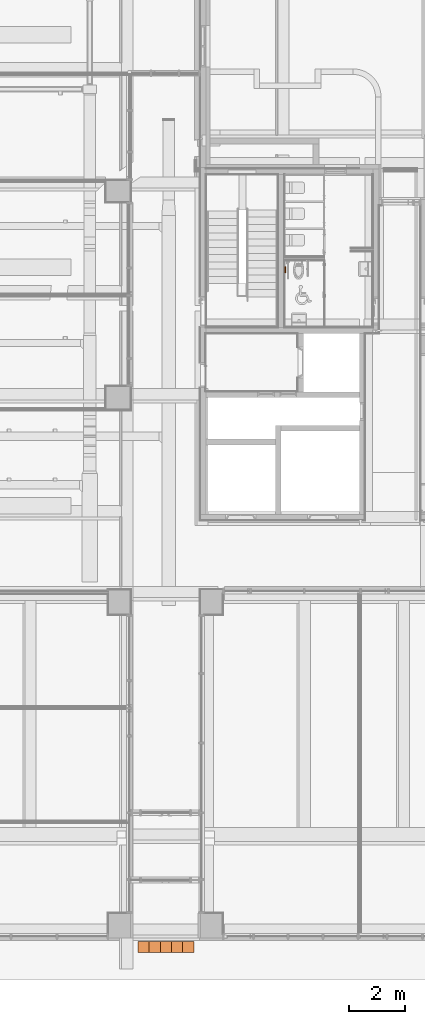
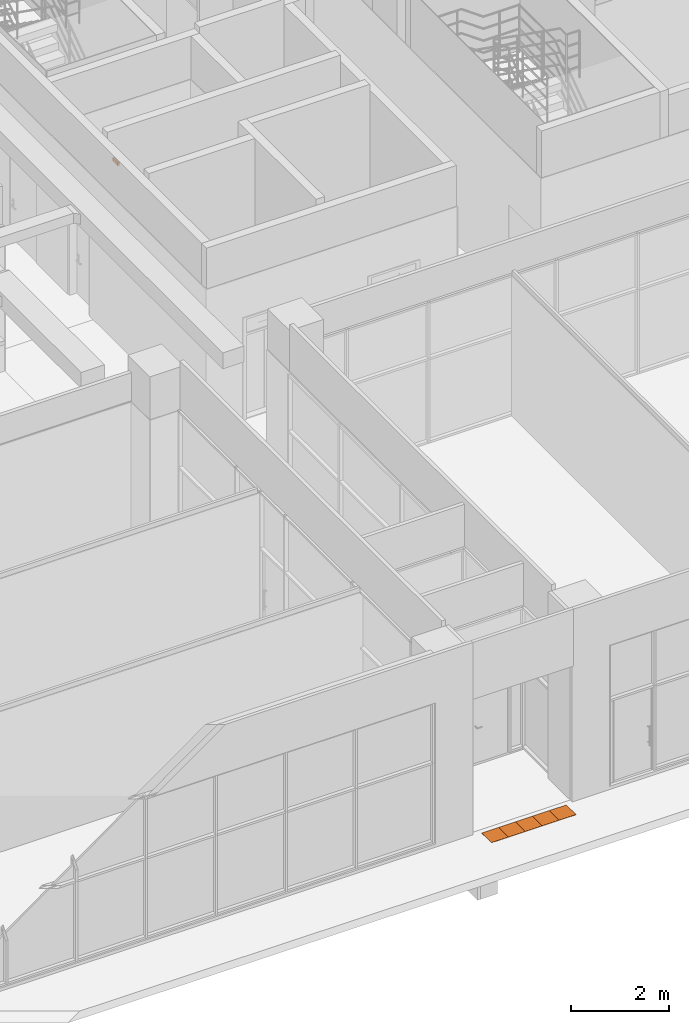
# One storey, part 99 of 100: 6 proxies.
"""IFC2X3 building model written with IfcOpenShell, lengths in millimetres."""

import ifcopenshell
import ifcopenshell.guid

model = None  # the IFC model being written
_history = None  # IfcOwnerHistory: only IFC2X3 demands one
_inside = {}  # id of a spatial element -> (the spatial element, [elements in it])
_under = {}  # id of a project, library or spatial element -> (it, [spatial elements below it])
_declared = {}  # id of a project -> (the project, [libraries it declares])
_typed = {}  # id of a type object -> (the type object, [elements of that type])
_made_of = {}  # id of a material, layer set ... -> (it, [elements and type objects made of it])


def new_model(schema):
    """Start an empty IFC model of exactly this schema.

    Asked for "IFC4X3", IfcOpenShell would pick the latest addendum, in which some entities
    have other attributes; the version numbers below select the first issue.
    IFC2X3 requires an IfcOwnerHistory on every rooted entity: one is made here for all.
    """
    global model, _history
    if schema == "IFC4X3":
        model = ifcopenshell.file(schema_version=(4, 3, 0, 0))
    else:
        model = ifcopenshell.file(schema=schema)
    _inside.clear()
    _under.clear()
    _declared.clear()
    _typed.clear()
    _made_of.clear()
    _history = None
    if model.schema == "IFC2X3":
        org = make("IfcOrganization", Name="unknown")
        user = make(
            "IfcPersonAndOrganization",
            ThePerson=make("IfcPerson", FamilyName="unknown"),
            TheOrganization=org,
        )
        app = make(
            "IfcApplication",
            ApplicationDeveloper=org,
            Version="unknown",
            ApplicationFullName="unknown",
            ApplicationIdentifier="unknown",
        )
        _history = make(
            "IfcOwnerHistory",
            OwningUser=user,
            OwningApplication=app,
            ChangeAction="ADDED",
            CreationDate=0,
        )
    return model


def make(cls, **values):
    """One entity of the class cls with the attributes given. An attribute that is None is left unset."""
    return model.create_entity(
        cls, **{name: value for name, value in values.items() if value is not None}
    )


def entity(cls, *values):
    """Any entity or typed value of the class cls, its attributes in the order of the schema. None: left unset."""
    e = model.create_entity(cls)
    for i, value in enumerate(values):
        if value is not None:
            e[i] = value
    return e


def rooted(cls, **values):
    """An entity with a GlobalId (a new one), such as an element, a storey or a relation."""
    return make(cls, GlobalId=ifcopenshell.guid.new(), OwnerHistory=_history, **values)


def si_unit(unit_type, name, prefix=None):
    """IfcSIUnit, for example si_unit("LENGTHUNIT", "METRE", prefix="MILLI")."""
    return make("IfcSIUnit", UnitType=unit_type, Prefix=prefix, Name=name)


def converted_unit(unit_type, name, factor, base, dimensions=None, offset=None):
    """IfcConversionBasedUnit, such as the inch: factor (a typed value) times the base unit."""
    return make(
        "IfcConversionBasedUnit"
        if offset is None
        else "IfcConversionBasedUnitWithOffset",
        ConversionOffset=offset,
        Dimensions=None
        if dimensions is None
        else entity("IfcDimensionalExponents", *dimensions),
        UnitType=unit_type,
        Name=name,
        ConversionFactor=make(
            "IfcMeasureWithUnit", ValueComponent=factor, UnitComponent=base
        ),
    )


def derived_unit(unit_type, elements):
    """IfcDerivedUnit: a product of units, each with its exponent."""
    return make(
        "IfcDerivedUnit",
        Elements=[
            make("IfcDerivedUnitElement", Unit=unit, Exponent=power)
            for unit, power in elements
        ],
        UnitType=unit_type,
    )


def assignment(units):
    """IfcUnitAssignment: the units of a project."""
    return None if units is None else make("IfcUnitAssignment", Units=units)


def point(xyz):
    """IfcCartesianPoint."""
    return None if xyz is None else make("IfcCartesianPoint", Coordinates=xyz)


def direction(xyz):
    """IfcDirection."""
    return None if xyz is None else make("IfcDirection", DirectionRatios=xyz)


def frame(location, z_axis=None, x_axis=None):
    """IfcAxis2Placement3D, a coordinate frame: its origin and axes. An axis left out is left unset."""
    return make(
        "IfcAxis2Placement3D",
        Location=point(location),
        Axis=direction(z_axis),
        RefDirection=direction(x_axis),
    )


def frame_2d(location, x_axis=None):
    """IfcAxis2Placement2D, a coordinate frame in the plane: its origin and x axis."""
    return make(
        "IfcAxis2Placement2D", Location=point(location), RefDirection=direction(x_axis)
    )


def origin():
    """The frame at (0, 0, 0) with its axes left unset."""
    return frame((0.0, 0.0, 0.0))


def place(relative_to, where):
    """IfcLocalPlacement: puts the frame where relative to a parent placement (None: the world)."""
    return make(
        "IfcLocalPlacement", PlacementRelTo=relative_to, RelativePlacement=where
    )


def context(
    kind, dimensions, precision=None, world=None, true_north=None, identifier=None
):
    """IfcGeometricRepresentationContext, for example the 3D "Model" context."""
    return make(
        "IfcGeometricRepresentationContext",
        ContextIdentifier=identifier,
        ContextType=kind,
        CoordinateSpaceDimension=dimensions,
        Precision=precision,
        WorldCoordinateSystem=world,
        TrueNorth=true_north,
    )


def subcontext(parent, identifier, kind, view, scale=None):
    """IfcGeometricRepresentationSubContext, for example "Body" below "Model"."""
    return make(
        "IfcGeometricRepresentationSubContext",
        ContextIdentifier=identifier,
        ContextType=kind,
        ParentContext=parent,
        TargetScale=scale,
        TargetView=view,
    )


def project(units=None, contexts=None):
    """IfcProject with its units and contexts."""
    return rooted(
        "IfcProject",
        Name="project",
        RepresentationContexts=contexts,
        UnitsInContext=assignment(units),
    )


def spatial(cls, under=None, at=None, **own):
    """A site, building, storey or space (cls), placed at a placement, below another one or the project."""
    s = rooted(cls, ObjectPlacement=at, **own)
    if under is not None:
        _under.setdefault(under.id(), (under, []))[1].append(s)
    return s


def profile(cls, at=None, kind="AREA", **sizes):
    """A parametric profile (cls). Its sizes go by their IFC names, for example OverallWidth=200.0."""
    return make(cls, ProfileType=kind, Position=at, **sizes)


def rectangle(**sizes):
    """IfcRectangleProfileDef."""
    return profile("IfcRectangleProfileDef", **sizes)


def extrude(swept, where, along, depth):
    """IfcExtrudedAreaSolid: the profile swept, set in the frame where, extruded along a direction by depth."""
    return make(
        "IfcExtrudedAreaSolid",
        SweptArea=swept,
        Position=where,
        ExtrudedDirection=direction(along),
        Depth=depth,
    )


def shape(context_of_items, identifier, shape_type, items):
    """IfcShapeRepresentation: the items that make up one representation, for example the "Body"."""
    return make(
        "IfcShapeRepresentation",
        ContextOfItems=context_of_items,
        RepresentationIdentifier=identifier,
        RepresentationType=shape_type,
        Items=items,
    )


def source(mapping_origin, context_of_items, identifier, shape_type, items):
    """IfcRepresentationMap: a shape defined once, which mapped items show again and again."""
    return make(
        "IfcRepresentationMap",
        MappingOrigin=mapping_origin,
        MappedRepresentation=shape(context_of_items, identifier, shape_type, items),
    )


def transform(
    local_origin,
    x_axis=None,
    y_axis=None,
    z_axis=None,
    scale=None,
    scale2=None,
    scale3=None,
    uniform=True,
):
    """IfcCartesianTransformationOperator3D, or its non-uniform kind. x_axis, y_axis, z_axis: its Axis1, 2, 3."""
    if uniform:
        return make(
            "IfcCartesianTransformationOperator3D",
            Axis1=direction(x_axis),
            Axis2=direction(y_axis),
            LocalOrigin=point(local_origin),
            Scale=scale,
            Axis3=direction(z_axis),
        )
    return make(
        "IfcCartesianTransformationOperator3DnonUniform",
        Axis1=direction(x_axis),
        Axis2=direction(y_axis),
        LocalOrigin=point(local_origin),
        Scale=scale,
        Axis3=direction(z_axis),
        Scale2=scale2,
        Scale3=scale3,
    )


def mapped(mapping_source, mapping_target):
    """IfcMappedItem: shows the shape of a source again, moved by a transform."""
    return make(
        "IfcMappedItem", MappingSource=mapping_source, MappingTarget=mapping_target
    )


def material(Name=None, Category=None):
    """IfcMaterial."""
    return make("IfcMaterial", Name=Name, Category=Category)


def made_of(thing, what):
    """Note that an element or type object is made of a material, layer set ...; save() writes the relation."""
    if what is not None:
        _made_of.setdefault(what.id(), (what, []))[1].append(thing)
    return thing


def type_object(cls, material=None, **own):
    """A type object (cls), such as IfcWallType, which elements share."""
    return made_of(rooted(cls, **own), material)


def type_shapes(of_type, sources):
    """Give a type object the sources (RepresentationMaps) that its elements show as mapped items."""
    of_type.RepresentationMaps = sources


def element(
    cls,
    number,
    at=None,
    inside=None,
    cuts=None,
    type_object=None,
    material=None,
    context=None,
    identifier="Body",
    shape_type=None,
    held_by="IfcProductDefinitionShape",
    body=None,
    shapes=None,
    **own,
):
    """One element of the class cls, such as IfcWall. Its Tag is "e" and its number.

    at: its placement. inside: the storey or other place that contains it. cuts: it is an
    opening in that element (IfcRelVoidsElement). A single representation is given by context,
    identifier, shape_type and body (its items); several are given by shapes. held_by: the class
    of the entity that holds the representations. save() writes the other relations.
    """
    e = rooted(cls, Tag="e%d" % number, ObjectPlacement=at, **own)
    if body is not None:
        shapes = [shape(context, identifier, shape_type, body)]
    if shapes is not None:
        e.Representation = make(held_by, Representations=shapes)
    if inside is not None:
        _inside.setdefault(inside.id(), (inside, []))[1].append(e)
    if cuts is not None:
        rooted(
            "IfcRelVoidsElement", RelatingBuildingElement=cuts, RelatedOpeningElement=e
        )
    if type_object is not None:
        _typed.setdefault(type_object.id(), (type_object, []))[1].append(e)
    return made_of(e, material)


def aggregate(whole, parts):
    """IfcRelAggregates: a whole, such as a stair, and the parts it consists of."""
    return rooted("IfcRelAggregates", RelatingObject=whole, RelatedObjects=parts)


def save(model, path):
    """Write the relations noted so far, then the file.

    IfcRelAggregates (storeys below a building ...), IfcRelContainedInSpatialStructure (elements
    in a storey), IfcRelDefinesByType, IfcRelAssociatesMaterial and IfcRelDeclares: one each for
    every whole, place, type object, material and project.
    """
    for whole, parts in _under.values():
        aggregate(whole, parts)
    for where, things in _inside.values():
        rooted(
            "IfcRelContainedInSpatialStructure",
            RelatedElements=things,
            RelatingStructure=where,
        )
    for kind, things in _typed.values():
        rooted("IfcRelDefinesByType", RelatedObjects=things, RelatingType=kind)
    for what, things in _made_of.values():
        rooted("IfcRelAssociatesMaterial", RelatedObjects=things, RelatingMaterial=what)
    for by, libraries in _declared.values():
        rooted("IfcRelDeclares", RelatingContext=by, RelatedDefinitions=libraries)
    model.write(path)


model = new_model("IFC2X3")

# Units and contexts
model_context = context("Model", 3, precision=0.01, world=origin(), true_north=direction((6.123031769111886e-17, 1.0)))
body_context = subcontext(model_context, "Body", "Model", "MODEL_VIEW")
ifc_project = project(units=[si_unit("LENGTHUNIT", "METRE", prefix="MILLI"), si_unit("AREAUNIT", "SQUARE_METRE"), si_unit("VOLUMEUNIT", "CUBIC_METRE"), converted_unit("PLANEANGLEUNIT", "DEGREE", entity("IfcRatioMeasure", 0.017453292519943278), si_unit("PLANEANGLEUNIT", "RADIAN"), dimensions=[0, 0, 0, 0, 0, 0, 0]), si_unit("MASSUNIT", "GRAM", prefix="KILO"), derived_unit("MASSDENSITYUNIT", [(si_unit("MASSUNIT", "GRAM", prefix="KILO"), 1), (si_unit("LENGTHUNIT", "METRE"), -3)]), derived_unit("MOMENTOFINERTIAUNIT", [(si_unit("LENGTHUNIT", "METRE"), 4)]), si_unit("TIMEUNIT", "SECOND"), si_unit("FREQUENCYUNIT", "HERTZ"), si_unit("THERMODYNAMICTEMPERATUREUNIT", "DEGREE_CELSIUS"), derived_unit("THERMALTRANSMITTANCEUNIT", [(si_unit("MASSUNIT", "GRAM", prefix="KILO"), 1), (si_unit("THERMODYNAMICTEMPERATUREUNIT", "KELVIN"), -1), (si_unit("TIMEUNIT", "SECOND"), -3)]), derived_unit("VOLUMETRICFLOWRATEUNIT", [(si_unit("LENGTHUNIT", "METRE"), 3), (si_unit("TIMEUNIT", "SECOND"), -1)]), derived_unit("MASSFLOWRATEUNIT", [(si_unit("MASSUNIT", "GRAM", prefix="KILO"), 1), (si_unit("TIMEUNIT", "SECOND"), -1)]), derived_unit("ROTATIONALFREQUENCYUNIT", [(si_unit("TIMEUNIT", "SECOND"), -1)]), si_unit("ELECTRICCURRENTUNIT", "AMPERE"), si_unit("ELECTRICVOLTAGEUNIT", "VOLT"), si_unit("POWERUNIT", "WATT"), si_unit("FORCEUNIT", "NEWTON", prefix="KILO"), si_unit("ILLUMINANCEUNIT", "LUX"), si_unit("LUMINOUSFLUXUNIT", "LUMEN"), si_unit("LUMINOUSINTENSITYUNIT", "CANDELA"), derived_unit("USERDEFINED", [(si_unit("MASSUNIT", "GRAM", prefix="KILO"), -1), (si_unit("LENGTHUNIT", "METRE"), -2), (si_unit("TIMEUNIT", "SECOND"), 3), (si_unit("LUMINOUSFLUXUNIT", "LUMEN"), 1)]), derived_unit("SOUNDPOWERUNIT", [(si_unit("MASSUNIT", "GRAM", prefix="KILO"), 1), (si_unit("LENGTHUNIT", "METRE"), 2), (si_unit("TIMEUNIT", "SECOND"), -3)]), derived_unit("SOUNDPRESSUREUNIT", [(si_unit("MASSUNIT", "GRAM", prefix="KILO"), 1), (si_unit("LENGTHUNIT", "METRE"), -1), (si_unit("TIMEUNIT", "SECOND"), -2)]), derived_unit("LINEARVELOCITYUNIT", [(si_unit("LENGTHUNIT", "METRE"), 1), (si_unit("TIMEUNIT", "SECOND"), -1)]), si_unit("PRESSUREUNIT", "PASCAL"), derived_unit("USERDEFINED", [(si_unit("LENGTHUNIT", "METRE"), -2), (si_unit("MASSUNIT", "GRAM", prefix="KILO"), 1), (si_unit("TIMEUNIT", "SECOND"), -2)]), derived_unit("LINEARFORCEUNIT", [(si_unit("MASSUNIT", "GRAM", prefix="KILO"), 1), (si_unit("LENGTHUNIT", "METRE"), 1), (si_unit("TIMEUNIT", "SECOND"), -2), (si_unit("LENGTHUNIT", "METRE"), -1)]), derived_unit("PLANARFORCEUNIT", [(si_unit("MASSUNIT", "GRAM", prefix="KILO"), 1), (si_unit("LENGTHUNIT", "METRE"), 1), (si_unit("TIMEUNIT", "SECOND"), -2), (si_unit("LENGTHUNIT", "METRE"), -2)])], contexts=[model_context])

# Site, building, storey
site_placement = place(None, frame((-14167.972527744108, -657.2125860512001, 0.0)))
site = spatial("IfcSite", under=ifc_project, at=site_placement, Name="Default", CompositionType="ELEMENT")
building_placement = place(site_placement, origin())
building = spatial("IfcBuilding", under=site, at=building_placement, Name="Sample Building", CompositionType="ELEMENT")
storey_placement = place(building_placement, origin())
storey = spatial("IfcBuildingStorey", under=building, at=storey_placement, Name="지상 1층", CompositionType="ELEMENT", Elevation=0.0)

# Proxies
ifc_material = material(Name="KBIMS-복합 패널")
building_element_proxy_type_1 = type_object("IfcBuildingElementProxyType", Name="점형블록:점형블록", PredefinedType="NOTDEFINED", material=ifc_material)
shared_shape_1 = source(origin(), body_context, "Body", "SweptSolid", [
    extrude(rectangle(XDim=400.0000000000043, YDim=400.0, at=frame_2d((-4.334310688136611e-12, 0.0), x_axis=(1.0, 0.0))), frame((56246.954621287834, 4476.677617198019, 0.0), z_axis=(0.0, 0.0, 1.0), x_axis=(-1.0, 0.0, 0.0)), (0.0, 0.0, 1.0), 4.397743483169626),
])
type_shapes(building_element_proxy_type_1, [shared_shape_1])
proxy_1_placement = place(storey_placement, frame((-28213.98215758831, -4235.685892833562, 0.0)))
element("IfcBuildingElementProxy", 1, at=proxy_1_placement, inside=storey, type_object=building_element_proxy_type_1, material=ifc_material, Name="점형블록:점형블록", ObjectType="점형블록:점형블록", context=body_context, shape_type="MappedRepresentation", body=[
    mapped(shared_shape_1, transform((0.0, 0.0, 0.0), scale=1.0)),
])
building_element_proxy_type_2 = type_object("IfcBuildingElementProxyType", Name="점형블록1:점형블록", PredefinedType="NOTDEFINED", material=ifc_material)
shared_shape_2 = source(origin(), body_context, "Body", "SweptSolid", [
    extrude(rectangle(XDim=400.0000000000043, YDim=400.0, at=frame_2d((-4.334310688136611e-12, 0.0), x_axis=(1.0, 0.0))), frame((56246.954621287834, 4476.677617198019, 0.0), z_axis=(0.0, 0.0, 1.0), x_axis=(-1.0, 0.0, 0.0)), (0.0, 0.0, 1.0), 4.397743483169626),
])
type_shapes(building_element_proxy_type_2, [shared_shape_2])
proxy_2_placement = place(storey_placement, frame((-27813.982157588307, -4235.685892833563, 0.0)))
element("IfcBuildingElementProxy", 2, at=proxy_2_placement, inside=storey, type_object=building_element_proxy_type_2, material=ifc_material, Name="점형블록1:점형블록", ObjectType="점형블록1:점형블록", context=body_context, shape_type="MappedRepresentation", body=[
    mapped(shared_shape_2, transform((0.0, 0.0, 0.0), scale=1.0)),
])
building_element_proxy_type_3 = type_object("IfcBuildingElementProxyType", Name="점형블록2:점형블록", PredefinedType="NOTDEFINED", material=ifc_material)
shared_shape_3 = source(origin(), body_context, "Body", "SweptSolid", [
    extrude(rectangle(XDim=400.0000000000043, YDim=400.0, at=frame_2d((-4.334310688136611e-12, 0.0), x_axis=(1.0, 0.0))), frame((56246.954621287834, 4476.677617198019, 0.0), z_axis=(0.0, 0.0, 1.0), x_axis=(-1.0, 0.0, 0.0)), (0.0, 0.0, 1.0), 4.397743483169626),
])
type_shapes(building_element_proxy_type_3, [shared_shape_3])
proxy_3_placement = place(storey_placement, frame((-27413.9821575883, -4235.685892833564, 0.0)))
element("IfcBuildingElementProxy", 3, at=proxy_3_placement, inside=storey, type_object=building_element_proxy_type_3, material=ifc_material, Name="점형블록2:점형블록", ObjectType="점형블록2:점형블록", context=body_context, shape_type="MappedRepresentation", body=[
    mapped(shared_shape_3, transform((0.0, 0.0, 0.0), scale=1.0)),
])
building_element_proxy_type_4 = type_object("IfcBuildingElementProxyType", Name="점형블록3:점형블록", PredefinedType="NOTDEFINED", material=ifc_material)
shared_shape_4 = source(origin(), body_context, "Body", "SweptSolid", [
    extrude(rectangle(XDim=400.0000000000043, YDim=400.0, at=frame_2d((-4.334310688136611e-12, 0.0), x_axis=(1.0, 0.0))), frame((56246.954621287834, 4476.677617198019, 0.0), z_axis=(0.0, 0.0, 1.0), x_axis=(-1.0, 0.0, 0.0)), (0.0, 0.0, 1.0), 4.397743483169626),
])
type_shapes(building_element_proxy_type_4, [shared_shape_4])
proxy_4_placement = place(storey_placement, frame((-27013.982157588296, -4235.685892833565, 0.0)))
element("IfcBuildingElementProxy", 4, at=proxy_4_placement, inside=storey, type_object=building_element_proxy_type_4, material=ifc_material, Name="점형블록3:점형블록", ObjectType="점형블록3:점형블록", context=body_context, shape_type="MappedRepresentation", body=[
    mapped(shared_shape_4, transform((0.0, 0.0, 0.0), scale=1.0)),
])
building_element_proxy_type_5 = type_object("IfcBuildingElementProxyType", Name="점형블록4:점형블록", PredefinedType="NOTDEFINED", material=ifc_material)
shared_shape_5 = source(origin(), body_context, "Body", "SweptSolid", [
    extrude(rectangle(XDim=400.0000000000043, YDim=400.0, at=frame_2d((-4.334310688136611e-12, 0.0), x_axis=(1.0, 0.0))), frame((56246.954621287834, 4476.677617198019, 0.0), z_axis=(0.0, 0.0, 1.0), x_axis=(-1.0, 0.0, 0.0)), (0.0, 0.0, 1.0), 4.397743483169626),
])
type_shapes(building_element_proxy_type_5, [shared_shape_5])
proxy_5_placement = place(storey_placement, frame((-26613.982157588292, -4235.685892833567, 0.0)))
element("IfcBuildingElementProxy", 5, at=proxy_5_placement, inside=storey, type_object=building_element_proxy_type_5, material=ifc_material, Name="점형블록4:점형블록", ObjectType="점형블록4:점형블록", context=body_context, shape_type="MappedRepresentation", body=[
    mapped(shared_shape_5, transform((0.0, 0.0, 0.0), scale=1.0)),
])

# Space
space_placement = place(storey_placement, origin())
space = spatial("IfcSpace", under=storey, at=space_placement, Name="170", CompositionType="ELEMENT", InteriorOrExteriorSpace="INTERNAL")

# Proxy
building_element_proxy_type_6 = type_object("IfcBuildingElementProxyType", Name="비상용벨:비상용벨", PredefinedType="NOTDEFINED", material=ifc_material)
shared_shape_6 = source(origin(), body_context, "Body", "SweptSolid", [
    extrude(rectangle(XDim=204.38472874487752, YDim=38.12692769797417, at=frame_2d((0.0, -5.417888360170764e-13), x_axis=(1.0, 0.0))), frame((56270.66937734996, 6228.98364767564, 253.61587820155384), z_axis=(0.0, 0.0, 1.0), x_axis=(-1.0, 0.0, 0.0)), (0.0, 0.0, 1.0), 81.6173579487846),
])
type_shapes(building_element_proxy_type_6, [shared_shape_6])
proxy_6_placement = place(space_placement, frame((26888.052307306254, 80809.51297417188, 0.0), z_axis=(0.0, 0.0, 1.0), x_axis=(0.0, -1.0, 0.0)))
element("IfcBuildingElementProxy", 6, at=proxy_6_placement, inside=space, type_object=building_element_proxy_type_6, material=ifc_material, Name="비상용벨:비상용벨", ObjectType="비상용벨:비상용벨", context=body_context, shape_type="MappedRepresentation", body=[
    mapped(shared_shape_6, transform((0.0, 0.0, 0.0), scale=1.0)),
])

save(model, "model.ifc")
